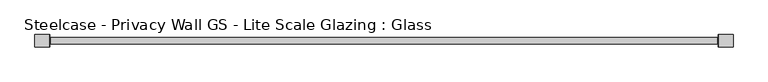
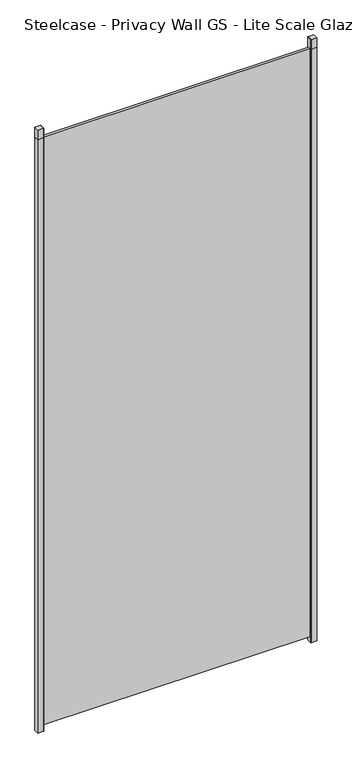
"""IFC4 building model written with IfcOpenShell, lengths in millimetres: plate geometry, Steelcase - Privacy Wall GS - Lite Scale Glazing : Glass."""

import ifcopenshell
import ifcopenshell.guid

model = None  # the IFC model being written
_history = None  # IfcOwnerHistory: only IFC2X3 demands one
_inside = {}  # id of a spatial element -> (the spatial element, [elements in it])
_under = {}  # id of a project, library or spatial element -> (it, [spatial elements below it])
_declared = {}  # id of a project -> (the project, [libraries it declares])
_typed = {}  # id of a type object -> (the type object, [elements of that type])
_made_of = {}  # id of a material, layer set ... -> (it, [elements and type objects made of it])


def new_model(schema):
    """Start an empty IFC model of exactly this schema.

    Asked for "IFC4X3", IfcOpenShell would pick the latest addendum, in which some entities
    have other attributes; the version numbers below select the first issue.
    IFC2X3 requires an IfcOwnerHistory on every rooted entity: one is made here for all.
    """
    global model, _history
    if schema == "IFC4X3":
        model = ifcopenshell.file(schema_version=(4, 3, 0, 0))
    else:
        model = ifcopenshell.file(schema=schema)
    _inside.clear()
    _under.clear()
    _declared.clear()
    _typed.clear()
    _made_of.clear()
    _history = None
    if model.schema == "IFC2X3":
        org = make("IfcOrganization", Name="unknown")
        user = make(
            "IfcPersonAndOrganization",
            ThePerson=make("IfcPerson", FamilyName="unknown"),
            TheOrganization=org,
        )
        app = make(
            "IfcApplication",
            ApplicationDeveloper=org,
            Version="unknown",
            ApplicationFullName="unknown",
            ApplicationIdentifier="unknown",
        )
        _history = make(
            "IfcOwnerHistory",
            OwningUser=user,
            OwningApplication=app,
            ChangeAction="ADDED",
            CreationDate=0,
        )
    return model


def make(cls, **values):
    """One entity of the class cls with the attributes given. An attribute that is None is left unset."""
    return model.create_entity(
        cls, **{name: value for name, value in values.items() if value is not None}
    )


def rooted(cls, **values):
    """An entity with a GlobalId (a new one), such as an element, a storey or a relation."""
    return make(cls, GlobalId=ifcopenshell.guid.new(), OwnerHistory=_history, **values)


def si_unit(unit_type, name, prefix=None):
    """IfcSIUnit, for example si_unit("LENGTHUNIT", "METRE", prefix="MILLI")."""
    return make("IfcSIUnit", UnitType=unit_type, Prefix=prefix, Name=name)


def assignment(units):
    """IfcUnitAssignment: the units of a project."""
    return None if units is None else make("IfcUnitAssignment", Units=units)


def point(xyz):
    """IfcCartesianPoint."""
    return None if xyz is None else make("IfcCartesianPoint", Coordinates=xyz)


def direction(xyz):
    """IfcDirection."""
    return None if xyz is None else make("IfcDirection", DirectionRatios=xyz)


def frame(location, z_axis=None, x_axis=None):
    """IfcAxis2Placement3D, a coordinate frame: its origin and axes. An axis left out is left unset."""
    return make(
        "IfcAxis2Placement3D",
        Location=point(location),
        Axis=direction(z_axis),
        RefDirection=direction(x_axis),
    )


def origin():
    """The frame at (0, 0, 0) with its axes left unset."""
    return frame((0.0, 0.0, 0.0))


def origin_with_axes():
    """The frame at (0, 0, 0) with the z axis (0, 0, 1) and the x axis (1, 0, 0) written out."""
    return frame((0.0, 0.0, 0.0), z_axis=(0.0, 0.0, 1.0), x_axis=(1.0, 0.0, 0.0))


def place(relative_to, where):
    """IfcLocalPlacement: puts the frame where relative to a parent placement (None: the world)."""
    return make(
        "IfcLocalPlacement", PlacementRelTo=relative_to, RelativePlacement=where
    )


def context(
    kind, dimensions, precision=None, world=None, true_north=None, identifier=None
):
    """IfcGeometricRepresentationContext, for example the 3D "Model" context."""
    return make(
        "IfcGeometricRepresentationContext",
        ContextIdentifier=identifier,
        ContextType=kind,
        CoordinateSpaceDimension=dimensions,
        Precision=precision,
        WorldCoordinateSystem=world,
        TrueNorth=true_north,
    )


def project(units=None, contexts=None):
    """IfcProject with its units and contexts."""
    return rooted(
        "IfcProject",
        Name="project",
        RepresentationContexts=contexts,
        UnitsInContext=assignment(units),
    )


def spatial(cls, under=None, at=None, **own):
    """A site, building, storey or space (cls), placed at a placement, below another one or the project."""
    s = rooted(cls, ObjectPlacement=at, **own)
    if under is not None:
        _under.setdefault(under.id(), (under, []))[1].append(s)
    return s


def polyline(points):
    """IfcPolyline through the points."""
    return make("IfcPolyline", Points=[point(p) for p in points])


def outline(outer, holes=None, kind="AREA"):
    """IfcArbitraryClosedProfileDef: a profile drawn as a closed curve; with holes, ...WithVoids."""
    if holes is None:
        return make("IfcArbitraryClosedProfileDef", ProfileType=kind, OuterCurve=outer)
    return make(
        "IfcArbitraryProfileDefWithVoids",
        ProfileType=kind,
        OuterCurve=outer,
        InnerCurves=holes,
    )


def extrude(swept, where, along, depth):
    """IfcExtrudedAreaSolid: the profile swept, set in the frame where, extruded along a direction by depth."""
    return make(
        "IfcExtrudedAreaSolid",
        SweptArea=swept,
        Position=where,
        ExtrudedDirection=direction(along),
        Depth=depth,
    )


def shape(context_of_items, identifier, shape_type, items):
    """IfcShapeRepresentation: the items that make up one representation, for example the "Body"."""
    return make(
        "IfcShapeRepresentation",
        ContextOfItems=context_of_items,
        RepresentationIdentifier=identifier,
        RepresentationType=shape_type,
        Items=items,
    )


def source(mapping_origin, context_of_items, identifier, shape_type, items):
    """IfcRepresentationMap: a shape defined once, which mapped items show again and again."""
    return make(
        "IfcRepresentationMap",
        MappingOrigin=mapping_origin,
        MappedRepresentation=shape(context_of_items, identifier, shape_type, items),
    )


def transform(
    local_origin,
    x_axis=None,
    y_axis=None,
    z_axis=None,
    scale=None,
    scale2=None,
    scale3=None,
    uniform=True,
):
    """IfcCartesianTransformationOperator3D, or its non-uniform kind. x_axis, y_axis, z_axis: its Axis1, 2, 3."""
    if uniform:
        return make(
            "IfcCartesianTransformationOperator3D",
            Axis1=direction(x_axis),
            Axis2=direction(y_axis),
            LocalOrigin=point(local_origin),
            Scale=scale,
            Axis3=direction(z_axis),
        )
    return make(
        "IfcCartesianTransformationOperator3DnonUniform",
        Axis1=direction(x_axis),
        Axis2=direction(y_axis),
        LocalOrigin=point(local_origin),
        Scale=scale,
        Axis3=direction(z_axis),
        Scale2=scale2,
        Scale3=scale3,
    )


def mapped(mapping_source, mapping_target):
    """IfcMappedItem: shows the shape of a source again, moved by a transform."""
    return make(
        "IfcMappedItem", MappingSource=mapping_source, MappingTarget=mapping_target
    )


def made_of(thing, what):
    """Note that an element or type object is made of a material, layer set ...; save() writes the relation."""
    if what is not None:
        _made_of.setdefault(what.id(), (what, []))[1].append(thing)
    return thing


def element(
    cls,
    number,
    at=None,
    inside=None,
    cuts=None,
    type_object=None,
    material=None,
    context=None,
    identifier="Body",
    shape_type=None,
    held_by="IfcProductDefinitionShape",
    body=None,
    shapes=None,
    **own,
):
    """One element of the class cls, such as IfcWall. Its Tag is "e" and its number.

    at: its placement. inside: the storey or other place that contains it. cuts: it is an
    opening in that element (IfcRelVoidsElement). A single representation is given by context,
    identifier, shape_type and body (its items); several are given by shapes. held_by: the class
    of the entity that holds the representations. save() writes the other relations.
    """
    e = rooted(cls, Tag="e%d" % number, ObjectPlacement=at, **own)
    if body is not None:
        shapes = [shape(context, identifier, shape_type, body)]
    if shapes is not None:
        e.Representation = make(held_by, Representations=shapes)
    if inside is not None:
        _inside.setdefault(inside.id(), (inside, []))[1].append(e)
    if cuts is not None:
        rooted(
            "IfcRelVoidsElement", RelatingBuildingElement=cuts, RelatedOpeningElement=e
        )
    if type_object is not None:
        _typed.setdefault(type_object.id(), (type_object, []))[1].append(e)
    return made_of(e, material)


def aggregate(whole, parts):
    """IfcRelAggregates: a whole, such as a stair, and the parts it consists of."""
    return rooted("IfcRelAggregates", RelatingObject=whole, RelatedObjects=parts)


def save(model, path):
    """Write the relations noted so far, then the file.

    IfcRelAggregates (storeys below a building ...), IfcRelContainedInSpatialStructure (elements
    in a storey), IfcRelDefinesByType, IfcRelAssociatesMaterial and IfcRelDeclares: one each for
    every whole, place, type object, material and project.
    """
    for whole, parts in _under.values():
        aggregate(whole, parts)
    for where, things in _inside.values():
        rooted(
            "IfcRelContainedInSpatialStructure",
            RelatedElements=things,
            RelatingStructure=where,
        )
    for kind, things in _typed.values():
        rooted("IfcRelDefinesByType", RelatedObjects=things, RelatingType=kind)
    for what, things in _made_of.values():
        rooted("IfcRelAssociatesMaterial", RelatedObjects=things, RelatingMaterial=what)
    for by, libraries in _declared.values():
        rooted("IfcRelDeclares", RelatingContext=by, RelatedDefinitions=libraries)
    model.write(path)


def steelcase_privacy_wall_gs_lite_scale_glazing_glass_9b0299d3(model_context):
    return source(origin(), model_context, "Body", "SweptSolid", [
        extrude(outline(polyline([(639.7195537, 11.7474777), (666.7070204, 11.7474777), (666.7070204, -11.7475002), (639.7195537, -11.7475002), (639.7195537, 11.7474777)])), frame((0.0, 0.0, 2970.784), z_axis=(0.0, 0.0, 1.0), x_axis=(1.0, 0.0, 0.0)), (0.0, 0.0, 1.0), 49.276),
        extrude(outline(polyline([(666.7070204, 11.7474777), (666.7070204, -11.7475002), (639.7195537, -11.7475002), (639.7195537, -6.3896792), (662.2147955, -6.3896792), (662.2147955, 6.3500051), (639.7195537, 6.3500051), (639.7195537, 11.7474777), (666.7070204, 11.7474777)])), frame((0.0, 0.0, -27.8638004), z_axis=(0.0, 0.0, 1.0), x_axis=(1.0, 0.0, 0.0)), (0.0, 0.0, 1.0), 2998.6478004),
        extrude(outline(polyline([(639.7195537, 11.7474777), (639.7195537, -11.7474954), (638.6908247, -11.7474954), (638.6908247, 11.7474777), (639.7195537, 11.7474777)])), frame((0.0, 0.0, -27.8638004), z_axis=(0.0, 0.0, 1.0), x_axis=(1.0, 0.0, 0.0)), (0.0, 0.0, 1.0), 3047.9238004),
        extrude(outline(polyline([(-639.7195537, 11.7474777), (-639.7195537, -11.7475002), (-666.7070204, -11.7475002), (-666.7070204, 11.7474777), (-639.7195537, 11.7474777)])), frame((0.0, 0.0, 2970.784), z_axis=(0.0, 0.0, 1.0), x_axis=(1.0, 0.0, 0.0)), (0.0, 0.0, 1.0), 49.276),
        extrude(outline(polyline([(-666.7070204, 11.7474777), (-639.7195537, 11.7474777), (-639.7195537, 6.3500051), (-662.2147955, 6.3500051), (-662.2147955, -6.3896792), (-639.7195537, -6.3896792), (-639.7195537, -11.7475002), (-666.7070204, -11.7475002), (-666.7070204, 11.7474777)])), frame((0.0, 0.0, -27.8638004), z_axis=(0.0, 0.0, 1.0), x_axis=(1.0, 0.0, 0.0)), (0.0, 0.0, 1.0), 2998.6478004),
        extrude(outline(polyline([(-639.7195537, 11.7474777), (-638.6908247, 11.7474777), (-638.6908247, -11.7474954), (-639.7195537, -11.7474954), (-639.7195537, 11.7474777)])), frame((0.0, 0.0, -27.8638004), z_axis=(0.0, 0.0, 1.0), x_axis=(1.0, 0.0, 0.0)), (0.0, 0.0, 1.0), 3047.9238004),
        extrude(outline(polyline([(-636.6588247, -6.349956), (-636.6588247, 6.3502015), (636.6588247, 6.3502015), (636.6588247, -6.349956), (-636.6588247, -6.349956)])), origin_with_axes(), (0.0, 0.0, 1.0), 2970.784),
    ])


if __name__ == "__main__":
    model = new_model("IFC4")
    model_context = context("Model", 3, world=origin())
    ifc_project = project(units=[si_unit("LENGTHUNIT", "METRE", prefix="MILLI")], contexts=[model_context])
    site = spatial("IfcSite", under=ifc_project)
    building = spatial("IfcBuilding", under=site)
    placement = place(None, origin())
    steelcase_privacy_wall_gs_lite_scale_glazing_glass_shape = steelcase_privacy_wall_gs_lite_scale_glazing_glass_9b0299d3(model_context)
    element("IfcPlate", 1, ObjectType="Steelcase - Privacy Wall GS - Lite Scale Glazing : Glass", at=placement, inside=building, context=model_context, shape_type="MappedRepresentation", body=[
        mapped(steelcase_privacy_wall_gs_lite_scale_glazing_glass_shape, transform((0.0, 0.0, 0.0), x_axis=(1.0, 0.0, 0.0), y_axis=(0.0, 1.0, 0.0), z_axis=(0.0, 0.0, 1.0))),
    ])
    save(model, "model.ifc")
